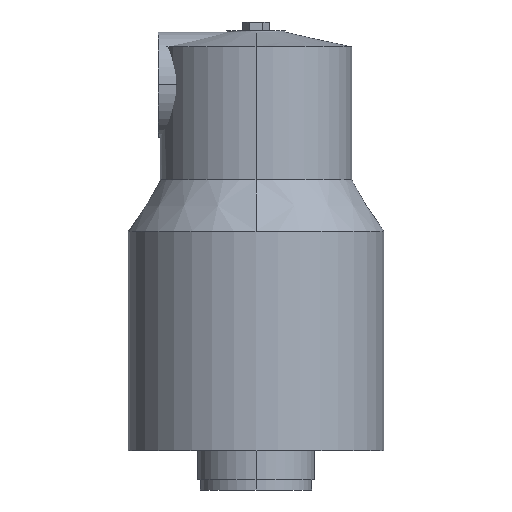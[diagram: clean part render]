
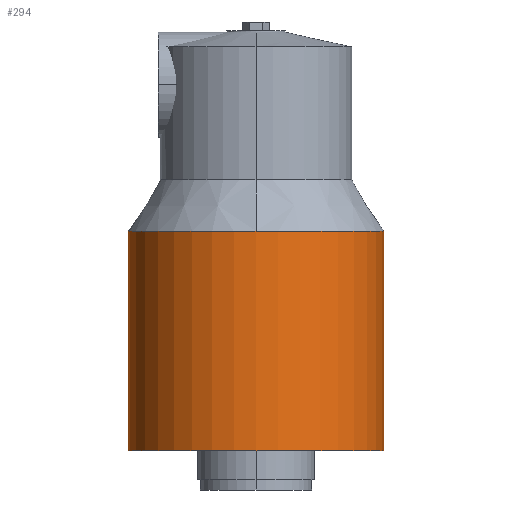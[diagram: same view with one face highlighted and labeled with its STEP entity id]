
A CAD part, front view. The second image highlights one B-rep face of the part: STEP entity #294.
In plain terms, the highlighted cylindrical face has radius 87.5 mm (diameter 175 mm), a partial arc.
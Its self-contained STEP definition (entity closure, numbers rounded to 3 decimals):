
#294=ADVANCED_FACE('',(#547),#548,.T.);
#547=FACE_OUTER_BOUND('',#844,.T.);
#548=CYLINDRICAL_SURFACE('',#845,87.5);
#844=EDGE_LOOP('',(#1249,#1250,#1251,#1252));
#845=AXIS2_PLACEMENT_3D('',#1253,#1254,#1255);
#1249=ORIENTED_EDGE('',*,*,#1646,.T.);
#1250=ORIENTED_EDGE('',*,*,#1647,.T.);
#1251=ORIENTED_EDGE('',*,*,#1648,.T.);
#1252=ORIENTED_EDGE('',*,*,#1649,.T.);
#1253=CARTESIAN_POINT('',(0.,0.0,27.0));
#1254=DIRECTION('',(0.,0.0,1.0));
#1255=DIRECTION('',(1.0,0.0,0.));
#1646=EDGE_CURVE('',#1933,#1934,#1935,.T.);
#1647=EDGE_CURVE('',#1934,#1936,#1937,.T.);
#1648=EDGE_CURVE('',#1936,#1938,#1939,.T.);
#1649=EDGE_CURVE('',#1938,#1933,#1940,.T.);
#1933=VERTEX_POINT('',#2358);
#1934=VERTEX_POINT('',#2359);
#1935=LINE('',#2360,#2361);
#1936=VERTEX_POINT('',#2362);
#1937=CIRCLE('',#2363,87.5);
#1938=VERTEX_POINT('',#2364);
#1939=LINE('',#2365,#2366);
#1940=CIRCLE('',#2367,87.5);
#2358=CARTESIAN_POINT('',(87.5,0.0,27.0));
#2359=CARTESIAN_POINT('',(87.5,0.0,177.0));
#2360=CARTESIAN_POINT('',(87.5,0.,27.0));
#2361=VECTOR('',#2727,1.0);
#2362=CARTESIAN_POINT('',(-87.5,0.,177.0));
#2363=AXIS2_PLACEMENT_3D('',#2728,#2729,#2730);
#2364=CARTESIAN_POINT('',(-87.5,0.,27.0));
#2365=CARTESIAN_POINT('',(-87.5,0.,27.0));
#2366=VECTOR('',#2731,1.0);
#2367=AXIS2_PLACEMENT_3D('',#2732,#2733,#2734);
#2727=DIRECTION('',(0.,0.0,1.0));
#2728=CARTESIAN_POINT('',(0.,0.0,177.0));
#2729=DIRECTION('',(0.,0.0,-1.0));
#2730=DIRECTION('',(1.0,0.0,0.));
#2731=DIRECTION('',(0.,-0.0,-1.0));
#2732=CARTESIAN_POINT('',(0.,0.0,27.0));
#2733=DIRECTION('',(0.,0.0,1.0));
#2734=DIRECTION('',(1.0,0.0,0.));
